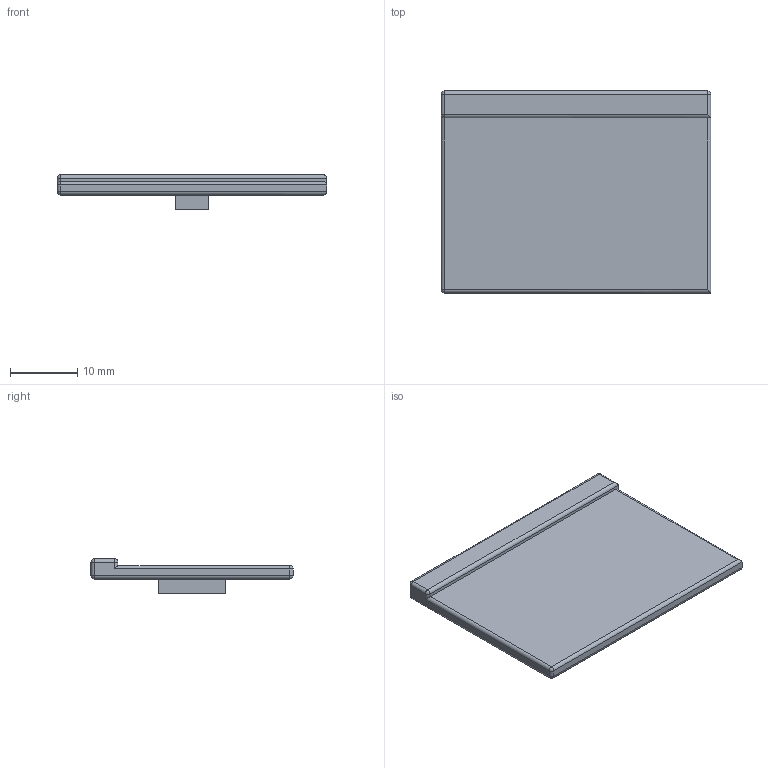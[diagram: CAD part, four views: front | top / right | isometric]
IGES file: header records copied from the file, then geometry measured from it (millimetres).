
Global section: file name: No Iges File Name specified; native system: Autodesk Inventor 2009; preprocessor: AutoDesk Inventor Iges Exporter R2009; author: hide; date: 20090826.064953; units: millimetre
Bounding box: 40 x 30 x 5.1 mm (x, y, z)
Volume: 2638.7 mm3; surface area: 2786.3 mm2
Topology: 1 solids, 1 shells, 43 faces, 98 edges, 49 vertices
Faces by surface type: cylinder 15, plane 13, sphere 7, bspline 4, revolution 4
